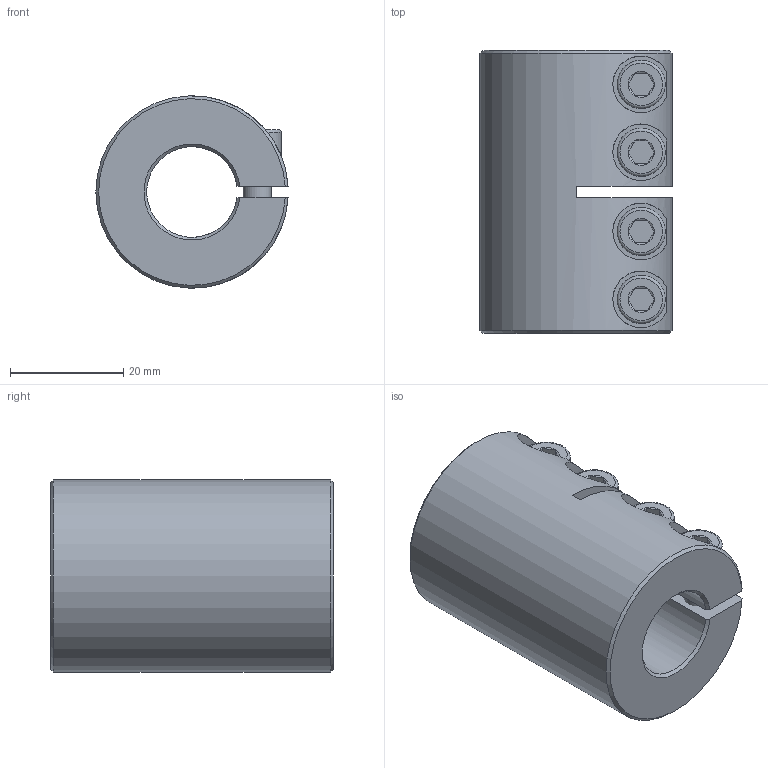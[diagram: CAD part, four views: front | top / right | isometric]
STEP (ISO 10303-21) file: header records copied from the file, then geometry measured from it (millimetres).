
FILE_DESCRIPTION( ( 'Unknown' ), '1' );
FILE_NAME( 'K:/Konstruktion/Fertigungszeichnungen/Schalenkupplung/KBST/KBST-16.stp', 'Unknown', ( 'Unknown' ), ( 'Unknown' ), 'PSStep 16.0.42', 'Unknown', ' ' );
FILE_SCHEMA( ( 'AUTOMOTIVE_DESIGN { 1 0 10303 214 1 1 1 1 }' ) );
Length unit declared in the file: millimetre
Products named in the file (3): Assem1; ISO EN DIN 4762 M5x16; KBST-16
Assembly tree (5 placements, depth 2):
  Assem1
    ISO EN DIN 4762 M5x16  x4
    KBST-16
Bounding box: 33.97 x 50 x 34 mm (x, y, z)
Volume: 32992.3 mm3; surface area: 13614.9 mm2
Topology: 5 solids, 5 shells, 118 faces, 240 edges, 144 vertices
Faces by surface type: plane 56, cone 32, cylinder 22, torus 8
Full cylindrical faces by diameter (mm): 4.134 x4, 5 x4, 5.5 x4, 8.5 x4
Entity records: 2490 total; most frequent: CARTESIAN_POINT 793, DIRECTION 252, ORIENTED_EDGE 214, EDGE_CURVE 107, AXIS2_PLACEMENT_3D 106, EDGE_LOOP 90, VERTEX_POINT 75, FACE_OUTER_BOUND 67
